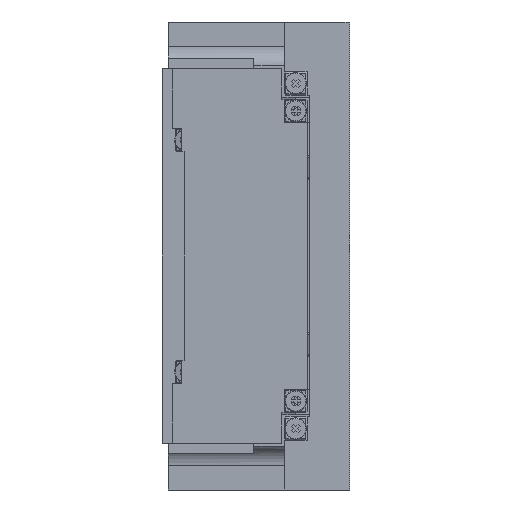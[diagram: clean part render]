
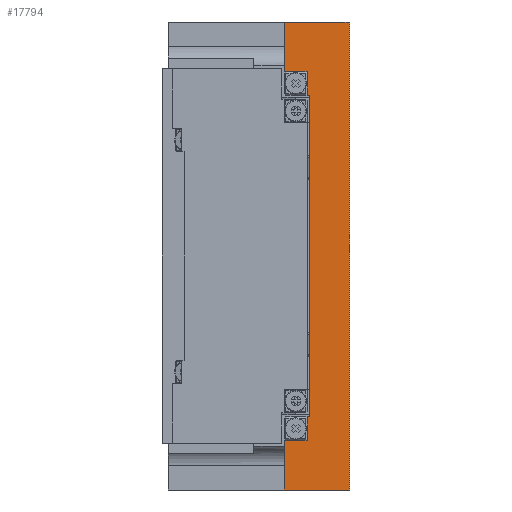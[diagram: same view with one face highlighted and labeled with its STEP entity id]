
A CAD part, left-side view. The second image highlights one B-rep face of the part: STEP entity #17794.
In plain terms, the highlighted planar face has unit normal (-1, 0, 0).
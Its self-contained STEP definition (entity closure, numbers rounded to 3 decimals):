
#76 = VECTOR ( 'NONE', #21945, 1000. ) ;
#252 = VECTOR ( 'NONE', #5248, 1000. ) ;
#575 = FACE_OUTER_BOUND ( 'NONE', #15634, .T. ) ;
#627 = ORIENTED_EDGE ( 'NONE', *, *, #3677, .F. ) ;
#931 = DIRECTION ( 'NONE',  ( 1., 0., 0. ) ) ;
#1296 = DIRECTION ( 'NONE',  ( 0., -1., 0. ) ) ;
#2025 = ORIENTED_EDGE ( 'NONE', *, *, #32735, .F. ) ;
#2041 = CARTESIAN_POINT ( 'NONE',  ( -117., 0.2, 82.5 ) ) ;
#2511 = DIRECTION ( 'NONE',  ( 0., -1., 0. ) ) ;
#3341 = CARTESIAN_POINT ( 'NONE',  ( -117., 23., -82.5 ) ) ;
#3677 = EDGE_CURVE ( 'NONE', #60655, #11597, #59036, .T. ) ;
#4013 = VECTOR ( 'NONE', #47410, 1000. ) ;
#4069 = EDGE_CURVE ( 'NONE', #5729, #11597, #40102, .T. ) ;
#5241 = ORIENTED_EDGE ( 'NONE', *, *, #46673, .T. ) ;
#5248 = DIRECTION ( 'NONE',  ( 0., 0., 1. ) ) ;
#5729 = VERTEX_POINT ( 'NONE', #26202 ) ;
#6147 = VECTOR ( 'NONE', #38847, 1000. ) ;
#6816 = ORIENTED_EDGE ( 'NONE', *, *, #4069, .T. ) ;
#7809 = CARTESIAN_POINT ( 'NONE',  ( -117., 15., -65. ) ) ;
#8514 = CARTESIAN_POINT ( 'NONE',  ( -117., 0.2, -82.5 ) ) ;
#9588 = EDGE_CURVE ( 'NONE', #22132, #25567, #43424, .T. ) ;
#10227 = EDGE_CURVE ( 'NONE', #27009, #42636, #12946, .T. ) ;
#10872 = ORIENTED_EDGE ( 'NONE', *, *, #57904, .F. ) ;
#11320 = CARTESIAN_POINT ( 'NONE',  ( -117., -229.436, 65. ) ) ;
#11533 = DIRECTION ( 'NONE',  ( 0., 0., 1. ) ) ;
#11597 = VERTEX_POINT ( 'NONE', #47832 ) ;
#11627 = LINE ( 'NONE', #52363, #252 ) ;
#12639 = ORIENTED_EDGE ( 'NONE', *, *, #49894, .F. ) ;
#12946 = LINE ( 'NONE', #7809, #76 ) ;
#13060 = VECTOR ( 'NONE', #1296, 1000. ) ;
#14611 = CARTESIAN_POINT ( 'NONE',  ( -117., -229.436, -65. ) ) ;
#15350 = CARTESIAN_POINT ( 'NONE',  ( -117., 23., -82.5 ) ) ;
#15634 = EDGE_LOOP ( 'NONE', ( #12639, #16345, #38628, #29206, #51098, #5241, #49920, #32302, #10872, #2025, #6816, #627 ) ) ;
#15714 = CARTESIAN_POINT ( 'NONE',  ( -117., 23., 65. ) ) ;
#16063 = VERTEX_POINT ( 'NONE', #15714 ) ;
#16345 = ORIENTED_EDGE ( 'NONE', *, *, #43068, .T. ) ;
#16403 = DIRECTION ( 'NONE',  ( 0., 1., 0. ) ) ;
#16817 = LINE ( 'NONE', #30127, #13060 ) ;
#17117 = VERTEX_POINT ( 'NONE', #42093 ) ;
#17794 = ADVANCED_FACE ( 'NONE', ( #575 ), #58631, .F. ) ;
#19424 = DIRECTION ( 'NONE',  ( 0., 1., 0. ) ) ;
#20381 = CARTESIAN_POINT ( 'NONE',  ( -117., 14., -56.7 ) ) ;
#20502 = LINE ( 'NONE', #20381, #33262 ) ;
#20775 = CARTESIAN_POINT ( 'NONE',  ( -117., 23., -82.5 ) ) ;
#21945 = DIRECTION ( 'NONE',  ( 0., 0., -1. ) ) ;
#22132 = VERTEX_POINT ( 'NONE', #59571 ) ;
#22944 = LINE ( 'NONE', #14611, #59759 ) ;
#23143 = VERTEX_POINT ( 'NONE', #38528 ) ;
#23541 = CARTESIAN_POINT ( 'NONE',  ( -117., 23., -65. ) ) ;
#23939 = CARTESIAN_POINT ( 'NONE',  ( -117., 15., -65. ) ) ;
#25567 = VERTEX_POINT ( 'NONE', #23541 ) ;
#26202 = CARTESIAN_POINT ( 'NONE',  ( -117., 15., 65. ) ) ;
#27009 = VERTEX_POINT ( 'NONE', #41453 ) ;
#29206 = ORIENTED_EDGE ( 'NONE', *, *, #38909, .T. ) ;
#30127 = CARTESIAN_POINT ( 'NONE',  ( -117., 23., 82.5 ) ) ;
#30546 = DIRECTION ( 'NONE',  ( 0., 1., 0. ) ) ;
#31228 = VERTEX_POINT ( 'NONE', #2041 ) ;
#32302 = ORIENTED_EDGE ( 'NONE', *, *, #33169, .F. ) ;
#32735 = EDGE_CURVE ( 'NONE', #5729, #16063, #36461, .T. ) ;
#33169 = EDGE_CURVE ( 'NONE', #23143, #31228, #16817, .T. ) ;
#33262 = VECTOR ( 'NONE', #54638, 1000. ) ;
#34853 = DIRECTION ( 'NONE',  ( 0., 0., -1. ) ) ;
#36461 = LINE ( 'NONE', #11320, #55267 ) ;
#37408 = VERTEX_POINT ( 'NONE', #8514 ) ;
#38501 = LINE ( 'NONE', #39061, #6147 ) ;
#38528 = CARTESIAN_POINT ( 'NONE',  ( -117., 23., 82.5 ) ) ;
#38628 = ORIENTED_EDGE ( 'NONE', *, *, #10227, .T. ) ;
#38847 = DIRECTION ( 'NONE',  ( 0., 0., 1. ) ) ;
#38909 = EDGE_CURVE ( 'NONE', #42636, #25567, #22944, .T. ) ;
#39061 = CARTESIAN_POINT ( 'NONE',  ( -117., 0.2, -82.5 ) ) ;
#40102 = LINE ( 'NONE', #23939, #4013 ) ;
#41237 = VECTOR ( 'NONE', #2511, 1000. ) ;
#41453 = CARTESIAN_POINT ( 'NONE',  ( -117., 15., -56.7 ) ) ;
#42093 = CARTESIAN_POINT ( 'NONE',  ( -117., 14., -56.7 ) ) ;
#42589 = AXIS2_PLACEMENT_3D ( 'NONE', #15350, #931, #34853 ) ;
#42636 = VERTEX_POINT ( 'NONE', #46898 ) ;
#43068 = EDGE_CURVE ( 'NONE', #17117, #27009, #53477, .T. ) ;
#43424 = LINE ( 'NONE', #20775, #51712 ) ;
#44090 = DIRECTION ( 'NONE',  ( 0., 1., 0. ) ) ;
#44666 = VECTOR ( 'NONE', #44090, 1000. ) ;
#44702 = CARTESIAN_POINT ( 'NONE',  ( -117., 14., 56.7 ) ) ;
#46673 = EDGE_CURVE ( 'NONE', #22132, #37408, #54044, .T. ) ;
#46898 = CARTESIAN_POINT ( 'NONE',  ( -117., 15., -65. ) ) ;
#47410 = DIRECTION ( 'NONE',  ( 0., 0., -1. ) ) ;
#47832 = CARTESIAN_POINT ( 'NONE',  ( -117., 15., 56.7 ) ) ;
#48931 = CARTESIAN_POINT ( 'NONE',  ( -117., 14., 56.7 ) ) ;
#49703 = EDGE_CURVE ( 'NONE', #37408, #31228, #38501, .T. ) ;
#49894 = EDGE_CURVE ( 'NONE', #17117, #60655, #20502, .T. ) ;
#49920 = ORIENTED_EDGE ( 'NONE', *, *, #49703, .T. ) ;
#51098 = ORIENTED_EDGE ( 'NONE', *, *, #9588, .F. ) ;
#51222 = VECTOR ( 'NONE', #30546, 1000. ) ;
#51712 = VECTOR ( 'NONE', #11533, 1000. ) ;
#52363 = CARTESIAN_POINT ( 'NONE',  ( -117., 23., -82.5 ) ) ;
#53477 = LINE ( 'NONE', #59387, #51222 ) ;
#54044 = LINE ( 'NONE', #3341, #41237 ) ;
#54638 = DIRECTION ( 'NONE',  ( 0., 0., 1. ) ) ;
#55267 = VECTOR ( 'NONE', #16403, 1000. ) ;
#57904 = EDGE_CURVE ( 'NONE', #16063, #23143, #11627, .T. ) ;
#58631 = PLANE ( 'NONE',  #42589 ) ;
#59036 = LINE ( 'NONE', #48931, #44666 ) ;
#59387 = CARTESIAN_POINT ( 'NONE',  ( -117., 14., -56.7 ) ) ;
#59571 = CARTESIAN_POINT ( 'NONE',  ( -117., 23., -82.5 ) ) ;
#59759 = VECTOR ( 'NONE', #19424, 1000. ) ;
#60655 = VERTEX_POINT ( 'NONE', #44702 ) ;
